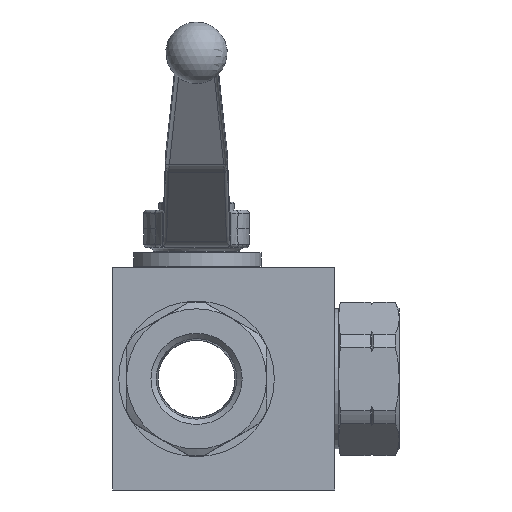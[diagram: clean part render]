
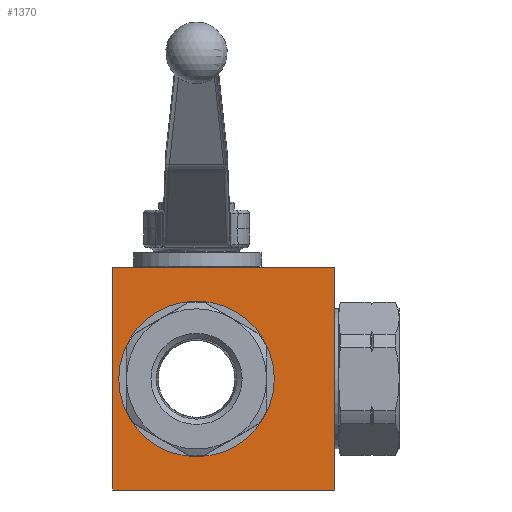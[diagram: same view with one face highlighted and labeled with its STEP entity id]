
A CAD part, front view. The second image highlights one B-rep face of the part: STEP entity #1370.
In plain terms, the highlighted planar face has unit normal (0, -1, 0).
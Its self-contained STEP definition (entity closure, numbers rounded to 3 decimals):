
#1370 = ADVANCED_FACE( '', ( #2693, #2694 ), #2695, .T. );
#2693 = FACE_BOUND( '', #4754, .T. );
#2694 = FACE_OUTER_BOUND( '', #4755, .T. );
#2695 = PLANE( '', #4756 );
#4754 = EDGE_LOOP( '', ( #8053 ) );
#4755 = EDGE_LOOP( '', ( #8054, #8055, #8056, #8057 ) );
#4756 = AXIS2_PLACEMENT_3D( '', #8058, #8059, #8060 );
#8053 = ORIENTED_EDGE( '', *, *, #9561, .F. );
#8054 = ORIENTED_EDGE( '', *, *, #9491, .T. );
#8055 = ORIENTED_EDGE( '', *, *, #9442, .T. );
#8056 = ORIENTED_EDGE( '', *, *, #9087, .T. );
#8057 = ORIENTED_EDGE( '', *, *, #9643, .T. );
#8058 = CARTESIAN_POINT( '', ( -24.5, -31.1, -32.5 ) );
#8059 = DIRECTION( '', ( 0., -1., 0. ) );
#8060 = DIRECTION( '', ( 0., 0., -1. ) );
#9087 = EDGE_CURVE( '', #10919, #10917, #10920, .T. );
#9442 = EDGE_CURVE( '', #11388, #10919, #11389, .T. );
#9491 = EDGE_CURVE( '', #11446, #11388, #11447, .T. );
#9561 = EDGE_CURVE( '', #11525, #11525, #11526, .T. );
#9643 = EDGE_CURVE( '', #10917, #11446, #11614, .T. );
#10917 = VERTEX_POINT( '', #14718 );
#10919 = VERTEX_POINT( '', #14721 );
#10920 = LINE( '', #14722, #14723 );
#11388 = VERTEX_POINT( '', #15843 );
#11389 = LINE( '', #15844, #15845 );
#11446 = VERTEX_POINT( '', #16153 );
#11447 = LINE( '', #16154, #16155 );
#11525 = VERTEX_POINT( '', #16275 );
#11526 = CIRCLE( '', #16276, 22.75 );
#11614 = LINE( '', #16518, #16519 );
#14718 = CARTESIAN_POINT( '', ( 40.5, -31.1, 32.5 ) );
#14721 = CARTESIAN_POINT( '', ( 40.5, -31.1, -32.5 ) );
#14722 = CARTESIAN_POINT( '', ( 40.5, -31.1, -32.5 ) );
#14723 = VECTOR( '', #17448, 1000. );
#15843 = CARTESIAN_POINT( '', ( -24.5, -31.1, -32.5 ) );
#15844 = CARTESIAN_POINT( '', ( -24.5, -31.1, -32.5 ) );
#15845 = VECTOR( '', #17767, 1000. );
#16153 = CARTESIAN_POINT( '', ( -24.5, -31.1, 32.5 ) );
#16154 = CARTESIAN_POINT( '', ( -24.5, -31.1, 32.5 ) );
#16155 = VECTOR( '', #17798, 1000. );
#16275 = CARTESIAN_POINT( '', ( 22.75, -31.1, 0. ) );
#16276 = AXIS2_PLACEMENT_3D( '', #17862, #17863, #17864 );
#16518 = CARTESIAN_POINT( '', ( 40.5, -31.1, 32.5 ) );
#16519 = VECTOR( '', #17910, 1000. );
#17448 = DIRECTION( '', ( 0., 0., 1. ) );
#17767 = DIRECTION( '', ( 1., 0., 0. ) );
#17798 = DIRECTION( '', ( 0., 0., -1. ) );
#17862 = CARTESIAN_POINT( '', ( 0., -31.1, 0. ) );
#17863 = DIRECTION( '', ( 0., -1., 0. ) );
#17864 = DIRECTION( '', ( 1., 0., 0. ) );
#17910 = DIRECTION( '', ( -1., 0., 0. ) );
